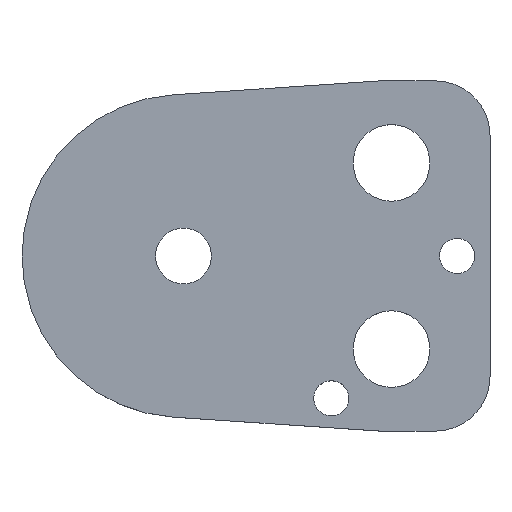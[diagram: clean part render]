
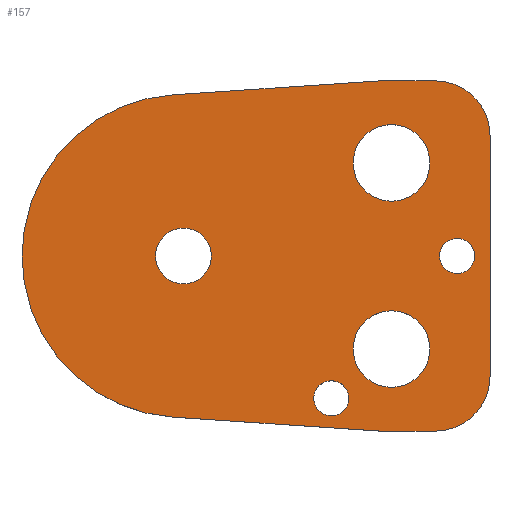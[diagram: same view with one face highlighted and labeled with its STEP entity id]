
A CAD part, top view. The second image highlights one B-rep face of the part: STEP entity #157.
In plain terms, the highlighted planar face has unit normal (0, 0, 1).
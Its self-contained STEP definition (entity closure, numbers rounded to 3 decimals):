
#103=FACE_BOUND('',#207,.T.);
#104=FACE_BOUND('',#208,.T.);
#105=FACE_BOUND('',#209,.T.);
#106=FACE_BOUND('',#210,.T.);
#107=FACE_BOUND('',#211,.T.);
#108=FACE_BOUND('',#212,.T.);
#122=CIRCLE('',#480,10.);
#124=CIRCLE('',#484,10.);
#127=CIRCLE('',#490,29.5);
#138=CIRCLE('',#503,3.2);
#139=CIRCLE('',#504,3.2);
#140=CIRCLE('',#505,7.);
#141=CIRCLE('',#506,7.);
#142=CIRCLE('',#507,7.);
#143=CIRCLE('',#508,7.);
#144=CIRCLE('',#509,3.2);
#145=CIRCLE('',#510,3.2);
#146=CIRCLE('',#511,5.1);
#147=CIRCLE('',#512,5.1);
#157=ADVANCED_FACE('',(#103,#104,#105,#106,#107,#108),#174,.T.);
#174=PLANE('',#513);
#207=EDGE_LOOP('',(#273,#274,#275,#276,#277,#278,#279,#280));
#208=EDGE_LOOP('',(#281,#282));
#209=EDGE_LOOP('',(#283,#284));
#210=EDGE_LOOP('',(#285,#286));
#211=EDGE_LOOP('',(#287,#288));
#212=EDGE_LOOP('',(#289,#290));
#273=ORIENTED_EDGE('',*,*,#368,.T.);
#274=ORIENTED_EDGE('',*,*,#372,.T.);
#275=ORIENTED_EDGE('',*,*,#375,.T.);
#276=ORIENTED_EDGE('',*,*,#378,.T.);
#277=ORIENTED_EDGE('',*,*,#381,.T.);
#278=ORIENTED_EDGE('',*,*,#384,.T.);
#279=ORIENTED_EDGE('',*,*,#387,.T.);
#280=ORIENTED_EDGE('',*,*,#390,.T.);
#281=ORIENTED_EDGE('',*,*,#401,.T.);
#282=ORIENTED_EDGE('',*,*,#402,.T.);
#283=ORIENTED_EDGE('',*,*,#403,.T.);
#284=ORIENTED_EDGE('',*,*,#404,.T.);
#285=ORIENTED_EDGE('',*,*,#405,.T.);
#286=ORIENTED_EDGE('',*,*,#406,.T.);
#287=ORIENTED_EDGE('',*,*,#407,.T.);
#288=ORIENTED_EDGE('',*,*,#408,.T.);
#289=ORIENTED_EDGE('',*,*,#409,.T.);
#290=ORIENTED_EDGE('',*,*,#410,.T.);
#332=VERTEX_POINT('',#649);
#333=VERTEX_POINT('',#651);
#336=VERTEX_POINT('',#658);
#338=VERTEX_POINT('',#664);
#340=VERTEX_POINT('',#670);
#342=VERTEX_POINT('',#676);
#344=VERTEX_POINT('',#682);
#346=VERTEX_POINT('',#688);
#357=VERTEX_POINT('',#717);
#358=VERTEX_POINT('',#718);
#359=VERTEX_POINT('',#721);
#360=VERTEX_POINT('',#722);
#361=VERTEX_POINT('',#725);
#362=VERTEX_POINT('',#726);
#363=VERTEX_POINT('',#729);
#364=VERTEX_POINT('',#730);
#365=VERTEX_POINT('',#733);
#366=VERTEX_POINT('',#734);
#368=EDGE_CURVE('',#333,#332,#422,.T.);
#372=EDGE_CURVE('',#332,#336,#426,.T.);
#375=EDGE_CURVE('',#336,#338,#122,.T.);
#378=EDGE_CURVE('',#338,#340,#430,.T.);
#381=EDGE_CURVE('',#340,#342,#124,.T.);
#384=EDGE_CURVE('',#342,#344,#434,.T.);
#387=EDGE_CURVE('',#344,#346,#437,.T.);
#390=EDGE_CURVE('',#346,#333,#127,.T.);
#401=EDGE_CURVE('',#357,#358,#138,.T.);
#402=EDGE_CURVE('',#358,#357,#139,.T.);
#403=EDGE_CURVE('',#359,#360,#140,.T.);
#404=EDGE_CURVE('',#360,#359,#141,.T.);
#405=EDGE_CURVE('',#361,#362,#142,.T.);
#406=EDGE_CURVE('',#362,#361,#143,.T.);
#407=EDGE_CURVE('',#363,#364,#144,.T.);
#408=EDGE_CURVE('',#364,#363,#145,.T.);
#409=EDGE_CURVE('',#365,#366,#146,.T.);
#410=EDGE_CURVE('',#366,#365,#147,.T.);
#422=LINE('',#650,#450);
#426=LINE('',#659,#454);
#430=LINE('',#671,#458);
#434=LINE('',#683,#462);
#437=LINE('',#689,#465);
#450=VECTOR('',#527,1.);
#454=VECTOR('',#533,1.);
#458=VECTOR('',#545,1.);
#462=VECTOR('',#557,1.);
#465=VECTOR('',#562,1.);
#480=AXIS2_PLACEMENT_3D('',#665,#538,#539);
#484=AXIS2_PLACEMENT_3D('',#677,#550,#551);
#490=AXIS2_PLACEMENT_3D('',#693,#568,#569);
#503=AXIS2_PLACEMENT_3D('',#716,#594,#595);
#504=AXIS2_PLACEMENT_3D('',#719,#596,#597);
#505=AXIS2_PLACEMENT_3D('',#720,#598,#599);
#506=AXIS2_PLACEMENT_3D('',#723,#600,#601);
#507=AXIS2_PLACEMENT_3D('',#724,#602,#603);
#508=AXIS2_PLACEMENT_3D('',#727,#604,#605);
#509=AXIS2_PLACEMENT_3D('',#728,#606,#607);
#510=AXIS2_PLACEMENT_3D('',#731,#608,#609);
#511=AXIS2_PLACEMENT_3D('',#732,#610,#611);
#512=AXIS2_PLACEMENT_3D('',#735,#612,#613);
#513=AXIS2_PLACEMENT_3D('',#736,#614,#615);
#527=DIRECTION('',(0.998,-0.067,0.));
#533=DIRECTION('',(1.,0.,0.));
#538=DIRECTION('',(0.,0.,1.));
#539=DIRECTION('',(-0.707,0.707,0.));
#545=DIRECTION('',(0.,1.,0.));
#550=DIRECTION('',(0.,0.,1.));
#551=DIRECTION('',(-0.707,-0.707,0.));
#557=DIRECTION('',(-1.,0.,0.));
#562=DIRECTION('',(-0.998,-0.067,0.));
#568=DIRECTION('',(0.,0.,1.));
#569=DIRECTION('',(1.,0.,0.));
#594=DIRECTION('',(0.,0.,-1.));
#595=DIRECTION('',(-1.,0.,0.));
#596=DIRECTION('',(0.,0.,-1.));
#597=DIRECTION('',(1.,0.,0.));
#598=DIRECTION('',(0.,0.,-1.));
#599=DIRECTION('',(-1.,0.,0.));
#600=DIRECTION('',(0.,0.,-1.));
#601=DIRECTION('',(1.,0.,0.));
#602=DIRECTION('',(0.,0.,-1.));
#603=DIRECTION('',(-1.,0.,0.));
#604=DIRECTION('',(0.,0.,-1.));
#605=DIRECTION('',(1.,0.,0.));
#606=DIRECTION('',(0.,0.,-1.));
#607=DIRECTION('',(-1.,0.,0.));
#608=DIRECTION('',(0.,0.,-1.));
#609=DIRECTION('',(1.,0.,0.));
#610=DIRECTION('',(0.,0.,-1.));
#611=DIRECTION('',(-1.,0.,0.));
#612=DIRECTION('',(0.,0.,-1.));
#613=DIRECTION('',(1.,0.,0.));
#614=DIRECTION('',(0.,0.,1.));
#615=DIRECTION('',(0.998,-0.067,0.));
#649=CARTESIAN_POINT('',(36.,-32.,5.));
#650=CARTESIAN_POINT('',(36.,-32.,5.));
#651=CARTESIAN_POINT('',(-1.989,-29.433,5.));
#658=CARTESIAN_POINT('',(46.,-32.,5.));
#659=CARTESIAN_POINT('',(36.,-32.,5.));
#664=CARTESIAN_POINT('',(56.,-22.,5.));
#665=CARTESIAN_POINT('',(46.,-22.,5.));
#670=CARTESIAN_POINT('',(56.,22.,5.));
#671=CARTESIAN_POINT('',(56.,22.,5.));
#676=CARTESIAN_POINT('',(46.,32.,5.));
#677=CARTESIAN_POINT('',(46.,22.,5.));
#682=CARTESIAN_POINT('',(36.,32.,5.));
#683=CARTESIAN_POINT('',(36.,32.,5.));
#688=CARTESIAN_POINT('',(-1.989,29.433,5.));
#689=CARTESIAN_POINT('',(36.,32.,5.));
#693=CARTESIAN_POINT('',(0.,0.,5.));
#716=CARTESIAN_POINT('',(50.,0.,5.));
#717=CARTESIAN_POINT('',(50.,3.2,5.));
#718=CARTESIAN_POINT('',(50.,-3.2,5.));
#719=CARTESIAN_POINT('',(50.,0.,5.));
#720=CARTESIAN_POINT('',(38.,17.,5.));
#721=CARTESIAN_POINT('',(38.,24.,5.));
#722=CARTESIAN_POINT('',(38.,10.,5.));
#723=CARTESIAN_POINT('',(38.,17.,5.));
#724=CARTESIAN_POINT('',(38.,-17.,5.));
#725=CARTESIAN_POINT('',(38.,-10.,5.));
#726=CARTESIAN_POINT('',(38.,-24.,5.));
#727=CARTESIAN_POINT('',(38.,-17.,5.));
#728=CARTESIAN_POINT('',(27.,-26.,5.));
#729=CARTESIAN_POINT('',(27.,-22.8,5.));
#730=CARTESIAN_POINT('',(27.,-29.2,5.));
#731=CARTESIAN_POINT('',(27.,-26.,5.));
#732=CARTESIAN_POINT('',(0.,0.,5.));
#733=CARTESIAN_POINT('',(0.,5.1,5.));
#734=CARTESIAN_POINT('',(0.,-5.1,5.));
#735=CARTESIAN_POINT('',(0.,0.,5.));
#736=CARTESIAN_POINT('',(-1.989,-29.433,5.));
